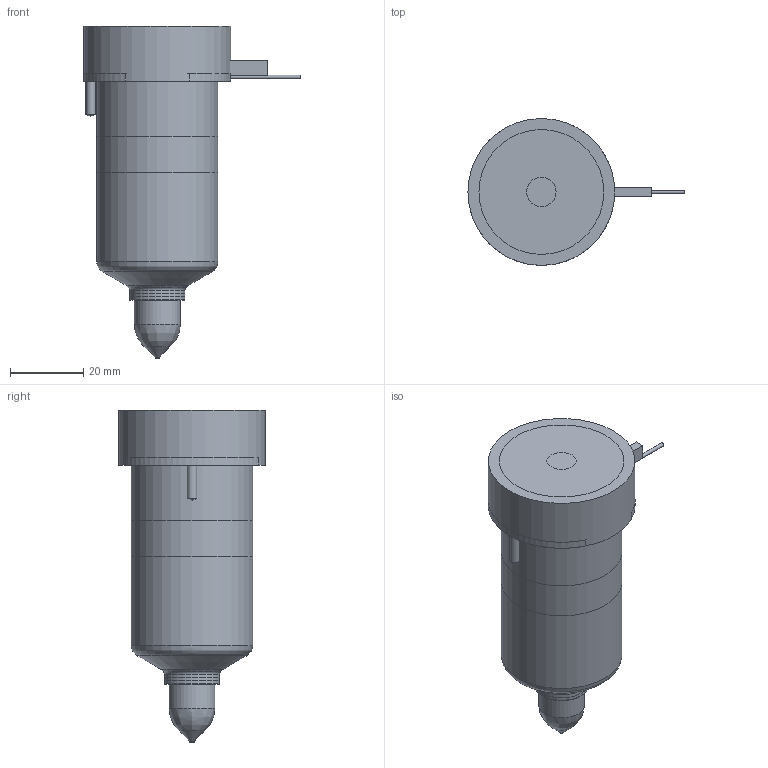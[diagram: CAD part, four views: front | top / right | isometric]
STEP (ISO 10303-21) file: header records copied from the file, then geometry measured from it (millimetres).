
FILE_DESCRIPTION(/* description */ (''),/* implementation_level */ '2;1');
FILE_NAME(/* name */ 'BXTT-BXIT19065-10_200C_b',/* time_stamp */ '2007-01-18T10:00:08+13:00',/* author */ (''),/* organization */ (''),/* preprocessor_version */ 'ST-DEVELOPER v9',/* originating_system */ 'UGS - NX 4.0',/* authorisation */ '');
FILE_SCHEMA (('CONFIG_CONTROL_DESIGN'));
Length unit declared in the file: millimetre
Products named in the file (1): BXTT-BXIT19065-10_200C_b
Bounding box: 58.85 x 40 x 90.4 mm (x, y, z)
Volume: 127485.9 mm3; surface area: 24033.9 mm2
Topology: 6 solids, 6 shells, 82 faces, 162 edges, 102 vertices
Faces by surface type: plane 35, cylinder 25, cone 12, torus 8, bspline 2
Full cylindrical faces by diameter (mm): 1 x3, 1.2 x1, 2.5 x2, 8 x1, 9 x1, 12.5 x1, 14.61 x1, 15.01 x2, 18.3 x1, 28.6 x1, 33 x2, 40 x1
Entity records: 2043 total; most frequent: CARTESIAN_POINT 427, DIRECTION 340, ORIENTED_EDGE 236, AXIS2_PLACEMENT_3D 151, EDGE_LOOP 128, EDGE_CURVE 118, VERTEX_POINT 95, ADVANCED_FACE 82
